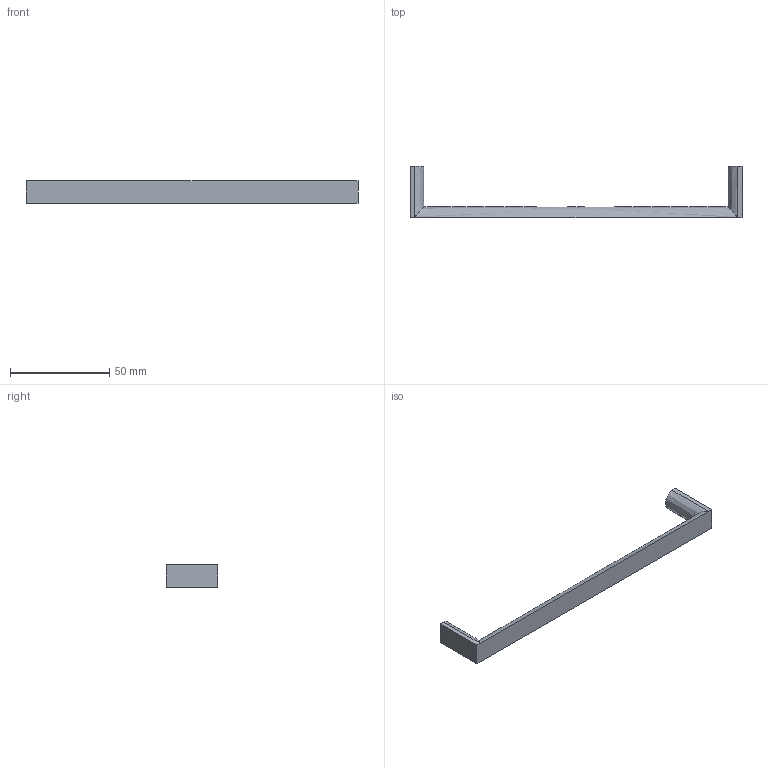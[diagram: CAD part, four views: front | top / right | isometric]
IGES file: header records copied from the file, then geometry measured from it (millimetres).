
Start section: Data from Parasolid IGES Translator 15.0.47, Copyright(c) 2006 Siemens P LM Software. All Rights Reserved.
Global section: file name: 9995780.igs; native system:  By UGS Corp.; preprocessor: XPlus GENERIC/IGES 3.0; author: Noname; organization: Noname; date: 20140122.172343; units: millimetre
Bounding box: 167 x 26 x 11.5 mm (x, y, z)
Surface area: 6662.9 mm2 (no closed solid volume)
Topology: 0 solids, 0 shells, 16 faces, 64 edges, 62 vertices
Faces by surface type: extrusion 11, revolution 5
